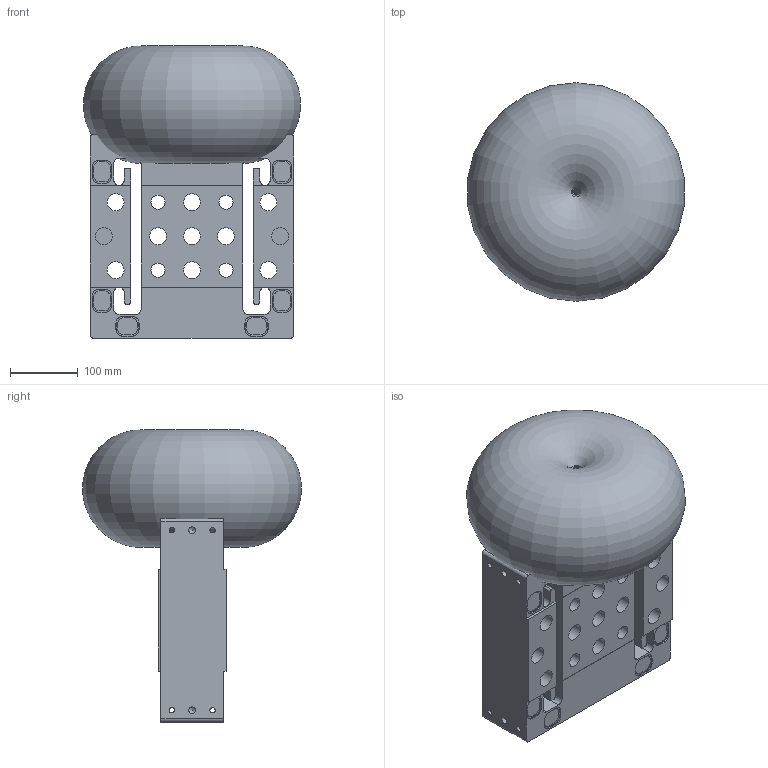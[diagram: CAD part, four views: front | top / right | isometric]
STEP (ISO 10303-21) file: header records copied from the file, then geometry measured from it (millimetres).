
FILE_DESCRIPTION(/* description */ ('Alibre Inc.'),/* implementation_level */ '2;1');
FILE_NAME(/* name */ 'export0',/* time_stamp */ '2016-02-23T08:14:47+01:00',/* author */ (''),/* organization */ (''),/* preprocessor_version */ 'ST-DEVELOPER v14',/* originating_system */ 'Alibre',/* authorisation */ '');
FILE_SCHEMA (('CONFIG_CONTROL_DESIGN'));
Length unit declared in the file: centimetre
Products named in the file (13): ID_1
Bounding box: 319.37 x 321.71 x 430.36 mm (x, y, z)
Volume: 16182319.5 mm3; surface area: 971102.2 mm2
Topology: 35 solids, 35 shells, 1346 faces, 3327 edges, 2090 vertices
Faces by surface type: cylinder 601, plane 570, torus 93, cone 82
Full cylindrical faces by diameter (mm): 2 x4, 2.8 x4, 3.242 x8, 3.8 x4, 4 x8, 4.5 x8, 7 x8, 8 x40, 10.106 x8, 16 x1, 20.752 x4, 22 x4, 24 x2, 25 x12, 26 x1, 32 x1, 40 x4
Entity records: 32619 total; most frequent: CARTESIAN_POINT 6705, DIRECTION 4933, ORIENTED_EDGE 4806, EDGE_CURVE 2403, AXIS2_PLACEMENT_3D 2054, VERTEX_POINT 1568, FACE_BOUND 1303, EDGE_LOOP 1295
